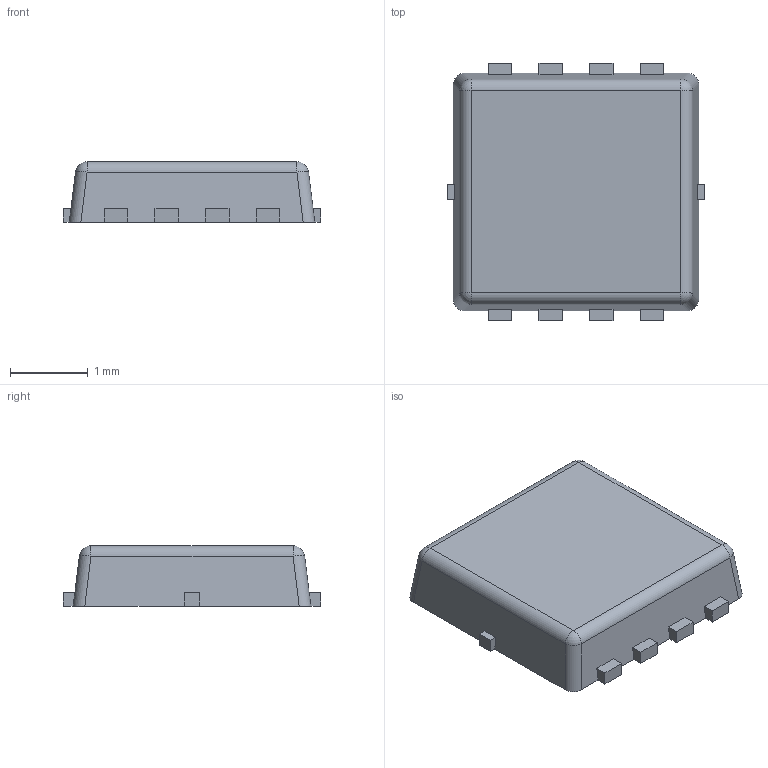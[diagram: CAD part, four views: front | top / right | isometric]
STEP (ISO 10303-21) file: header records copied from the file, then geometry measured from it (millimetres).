
FILE_DESCRIPTION(/* description */ ('Unknown'),/* implementation_level */ '2;1');
FILE_NAME(/* name */ 'MCG6D0N03YL-TP',/* time_stamp */ '2025-04-01T14:44:44+02:00',/* author */ ('Unknown'),/* organization */ ('Unknown'),/* preprocessor_version */ 'ST-DEVELOPER v19.4',/* originating_system */ 'Solid Edge',/* authorisation */ 'Unknown');
FILE_SCHEMA (('AUTOMOTIVE_DESIGN {1 0 10303 214 3 1 1}'));
Length unit declared in the file: millimetre
Products named in the file (1): MCG6D0N03YL-TP
Bounding box: 3.3 x 3.3 x 0.78 mm (x, y, z)
Volume: 7 mm3; surface area: 27.8 mm2
Topology: 1 solids, 1 shells, 68 faces, 210 edges, 140 vertices
Faces by surface type: plane 56, cylinder 8, sphere 4
Entity records: 2790 total; most frequent: CARTESIAN_POINT 415, ORIENTED_EDGE 412, DIRECTION 360, EDGE_CURVE 206, LINE 190, VECTOR 190, VERTEX_POINT 140, AXIS2_PLACEMENT_3D 85
